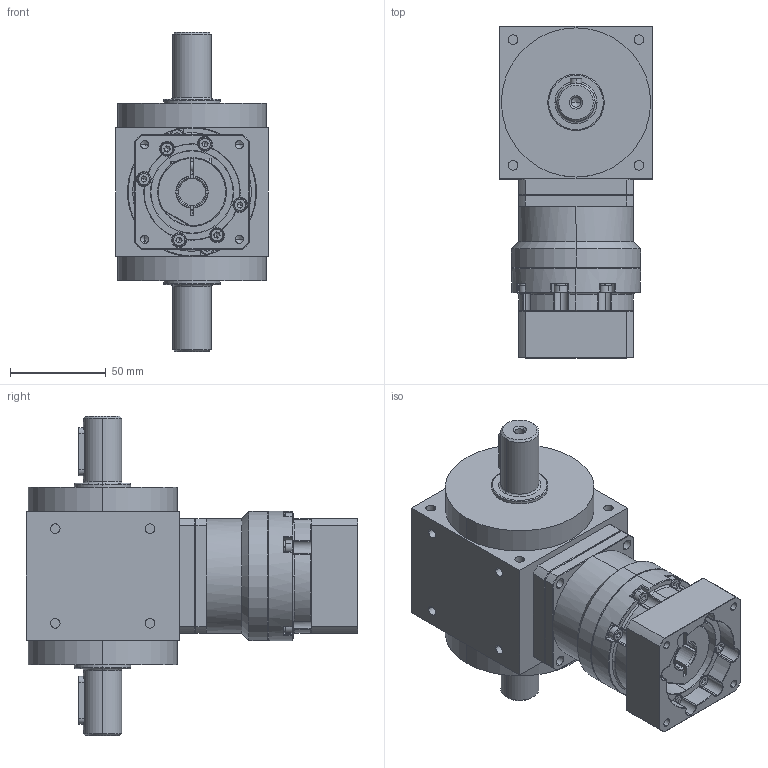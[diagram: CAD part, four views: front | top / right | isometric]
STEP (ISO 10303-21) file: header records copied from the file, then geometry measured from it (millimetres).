
FILE_DESCRIPTION (( 'STEP AP203' ), '1' );
FILE_NAME ('AAW080AS-L1-2P 14-50-70-M5.STEP', '2024-12-23T09:05:36', ( '' ), ( '' ), 'SwSTEP 2.0', 'SolidWorks 2021', '' );
FILE_SCHEMA (( 'CONFIG_CONTROL_DESIGN' ));
Length unit declared in the file: millimetre
Products named in the file (3): AAW080AS-2P; AAW080AS-L1-2P 14-50-70-M5; VRB-060-L1-S2-P1 14-50-70-M5
Assembly tree (2 placements, depth 2):
  AAW080AS-L1-2P 14-50-70-M5
    AAW080AS-2P
    VRB-060-L1-S2-P1 14-50-70-M5
Bounding box: 80 x 173.5 x 167 mm (x, y, z)
Volume: 820884.8 mm3; surface area: 113060.7 mm2
Topology: 32 solids, 32 shells, 1066 faces, 2571 edges, 1593 vertices
Faces by surface type: plane 418, cylinder 378, cone 200, torus 50, bspline 20
Entity records: 32398 total; most frequent: CARTESIAN_POINT 7090, DIRECTION 5536, ORIENTED_EDGE 5038, EDGE_CURVE 2519, AXIS2_PLACEMENT_3D 2208, VERTEX_POINT 1593, EDGE_LOOP 1184, CIRCLE 1157
